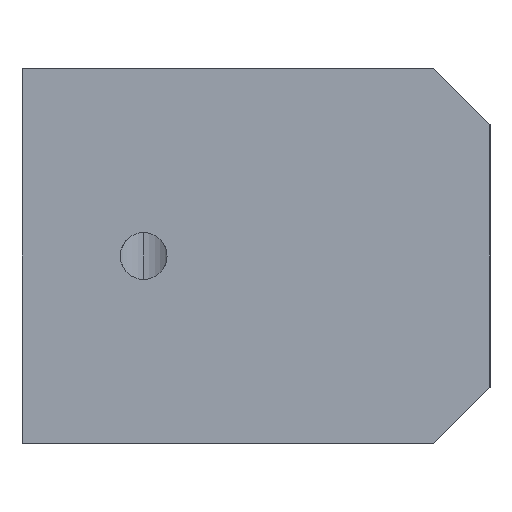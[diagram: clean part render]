
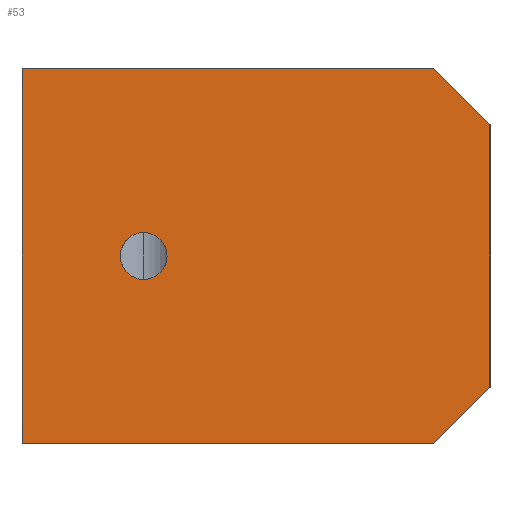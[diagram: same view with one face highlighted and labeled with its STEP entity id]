
A CAD part, left-side view. The second image highlights one B-rep face of the part: STEP entity #53.
In plain terms, the highlighted planar face has unit normal (-1, 0, 0).
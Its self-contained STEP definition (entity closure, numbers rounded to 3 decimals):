
#53 = ADVANCED_FACE ( 'NONE', ( #1028, #1036 ), #1046, .F. ) ;
#55 = EDGE_LOOP ( 'NONE', ( #65, #71 ) ) ;
#57 = VERTEX_POINT ( 'NONE', #1025 ) ;
#60 = ORIENTED_EDGE ( 'NONE', *, *, #853, .T. ) ;
#62 = EDGE_CURVE ( 'NONE', #256, #283, #1022, .T. ) ;
#65 = ORIENTED_EDGE ( 'NONE', *, *, #62, .F. ) ;
#69 = ORIENTED_EDGE ( 'NONE', *, *, #177, .T. ) ;
#70 = VERTEX_POINT ( 'NONE', #1030 ) ;
#71 = ORIENTED_EDGE ( 'NONE', *, *, #265, .F. ) ;
#74 = EDGE_LOOP ( 'NONE', ( #69, #60, #844, #870, #942, #938 ) ) ;
#114 = EDGE_CURVE ( 'NONE', #70, #57, #1101, .T. ) ;
#150 = VERTEX_POINT ( 'NONE', #1158 ) ;
#177 = EDGE_CURVE ( 'NONE', #180, #150, #1238, .T. ) ;
#180 = VERTEX_POINT ( 'NONE', #1244 ) ;
#256 = VERTEX_POINT ( 'NONE', #1361 ) ;
#265 = EDGE_CURVE ( 'NONE', #283, #256, #1360, .T. ) ;
#283 = VERTEX_POINT ( 'NONE', #1383 ) ;
#844 = ORIENTED_EDGE ( 'NONE', *, *, #936, .F. ) ;
#851 = VERTEX_POINT ( 'NONE', #2424 ) ;
#853 = EDGE_CURVE ( 'NONE', #150, #851, #2426, .T. ) ;
#870 = ORIENTED_EDGE ( 'NONE', *, *, #937, .T. ) ;
#871 = EDGE_CURVE ( 'NONE', #70, #180, #2452, .T. ) ;
#936 = EDGE_CURVE ( 'NONE', #943, #851, #2566, .T. ) ;
#937 = EDGE_CURVE ( 'NONE', #943, #57, #2556, .T. ) ;
#938 = ORIENTED_EDGE ( 'NONE', *, *, #871, .T. ) ;
#942 = ORIENTED_EDGE ( 'NONE', *, *, #114, .F. ) ;
#943 = VERTEX_POINT ( 'NONE', #2528 ) ;
#1022 = CIRCLE ( 'NONE', #1029, 1.25 ) ;
#1023 = DIRECTION ( 'NONE',  ( 0., 0., -1. ) ) ;
#1025 = CARTESIAN_POINT ( 'NONE',  ( -129., 3., 20. ) ) ;
#1028 = FACE_BOUND ( 'NONE', #55, .T. ) ;
#1029 = AXIS2_PLACEMENT_3D ( 'NONE', #1079, #1078, #1077 ) ;
#1030 = CARTESIAN_POINT ( 'NONE',  ( -129., 25., 20. ) ) ;
#1034 = DIRECTION ( 'NONE',  ( 1., 0., 0. ) ) ;
#1035 = CARTESIAN_POINT ( 'NONE',  ( -129., 25., 20. ) ) ;
#1036 = FACE_OUTER_BOUND ( 'NONE', #74, .T. ) ;
#1044 = AXIS2_PLACEMENT_3D ( 'NONE', #1035, #1034, #1023 ) ;
#1046 = PLANE ( 'NONE',  #1044 ) ;
#1077 = DIRECTION ( 'NONE',  ( 0., 0., 1. ) ) ;
#1078 = DIRECTION ( 'NONE',  ( -1., 0., 0. ) ) ;
#1079 = CARTESIAN_POINT ( 'NONE',  ( -129., 18.5, 10. ) ) ;
#1087 = DIRECTION ( 'NONE',  ( 0., -1., 0. ) ) ;
#1088 = VECTOR ( 'NONE', #1087, 1000. ) ;
#1100 = CARTESIAN_POINT ( 'NONE',  ( -129., 25., 20. ) ) ;
#1101 = LINE ( 'NONE', #1100, #1088 ) ;
#1158 = CARTESIAN_POINT ( 'NONE',  ( -129., 3., 0. ) ) ;
#1234 = DIRECTION ( 'NONE',  ( 0., -1., 0. ) ) ;
#1235 = VECTOR ( 'NONE', #1234, 1000. ) ;
#1236 = CARTESIAN_POINT ( 'NONE',  ( -129., 25., 0. ) ) ;
#1238 = LINE ( 'NONE', #1236, #1235 ) ;
#1244 = CARTESIAN_POINT ( 'NONE',  ( -129., 25., 0. ) ) ;
#1345 = CARTESIAN_POINT ( 'NONE',  ( -129., 18.5, 10. ) ) ;
#1360 = CIRCLE ( 'NONE', #1400, 1.25 ) ;
#1361 = CARTESIAN_POINT ( 'NONE',  ( -129., 18.5, 11.25 ) ) ;
#1383 = CARTESIAN_POINT ( 'NONE',  ( -129., 18.5, 8.75 ) ) ;
#1392 = DIRECTION ( 'NONE',  ( 0., 0., 1. ) ) ;
#1393 = DIRECTION ( 'NONE',  ( -1., 0., 0. ) ) ;
#1400 = AXIS2_PLACEMENT_3D ( 'NONE', #1345, #1393, #1392 ) ;
#2413 = DIRECTION ( 'NONE',  ( 0., -0.707, 0.707 ) ) ;
#2414 = VECTOR ( 'NONE', #2413, 1000. ) ;
#2424 = CARTESIAN_POINT ( 'NONE',  ( -129., 0., 3. ) ) ;
#2425 = CARTESIAN_POINT ( 'NONE',  ( -129., 0., 3. ) ) ;
#2426 = LINE ( 'NONE', #2425, #2414 ) ;
#2443 = DIRECTION ( 'NONE',  ( 0., 0., -1. ) ) ;
#2444 = VECTOR ( 'NONE', #2443, 1000. ) ;
#2452 = LINE ( 'NONE', #2455, #2444 ) ;
#2455 = CARTESIAN_POINT ( 'NONE',  ( -129., 25., 20. ) ) ;
#2528 = CARTESIAN_POINT ( 'NONE',  ( -129., 0., 17. ) ) ;
#2552 = DIRECTION ( 'NONE',  ( 0., 0.707, 0.707 ) ) ;
#2553 = VECTOR ( 'NONE', #2552, 1000. ) ;
#2554 = CARTESIAN_POINT ( 'NONE',  ( -129., 3., 20. ) ) ;
#2556 = LINE ( 'NONE', #2554, #2553 ) ;
#2558 = DIRECTION ( 'NONE',  ( 0., 0., -1. ) ) ;
#2559 = VECTOR ( 'NONE', #2558, 1000. ) ;
#2563 = CARTESIAN_POINT ( 'NONE',  ( -129., 0., 20. ) ) ;
#2566 = LINE ( 'NONE', #2563, #2559 ) ;
